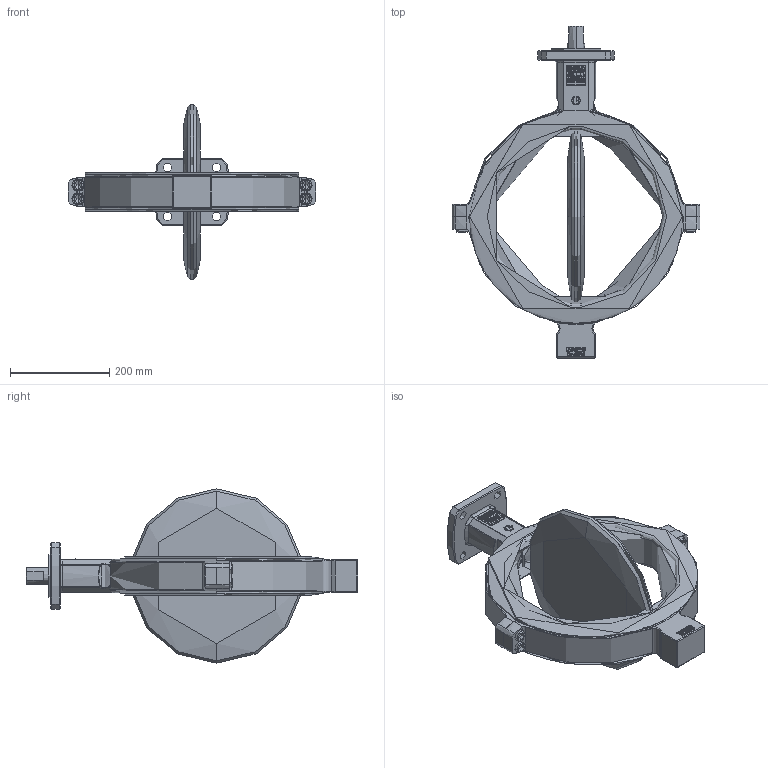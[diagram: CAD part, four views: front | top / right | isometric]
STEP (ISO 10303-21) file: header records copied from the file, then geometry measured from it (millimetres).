
FILE_DESCRIPTION((''),'2;1');
FILE_NAME('9595-20-0133_B_NKS_350','2014-07-08T',('mclefen'),(''),'PRO/ENGINEER BY PARAMETRIC TECHNOLOGY CORPORATION, 2011040','PRO/ENGINEER BY PARAMETRIC TECHNOLOGY CORPORATION, 2011040','');
FILE_SCHEMA(('CONFIG_CONTROL_DESIGN'));
Products named in the file (1): 9595-20-0133_B_NKS_350
Bounding box: 500 x 670 x 352 mm (x, y, z)
Topology: 3 solids, 25 shells, 2711 faces, 7057 edges, 4536 vertices
Faces by surface type: plane 2332, cylinder 217, torus 48, bspline 44, cone 34, extrusion 20, sphere 16
Entity records: 83731 total; most frequent: CARTESIAN_POINT 17974, ORIENTED_EDGE 14080, DIRECTION 12456, EDGE_CURVE 7053, VECTOR 6178, LINE 6158, VERTEX_POINT 4566, AXIS2_PLACEMENT_3D 3139
